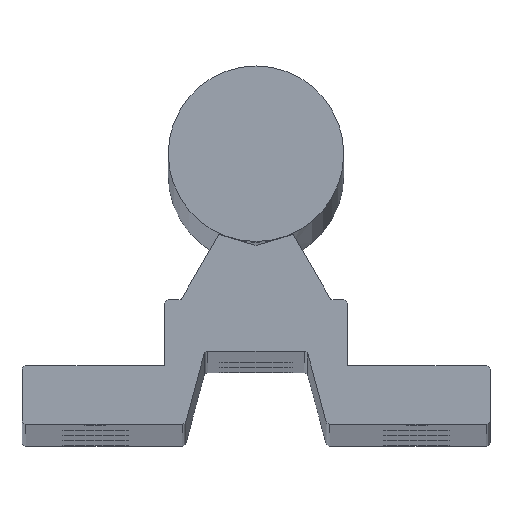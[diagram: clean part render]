
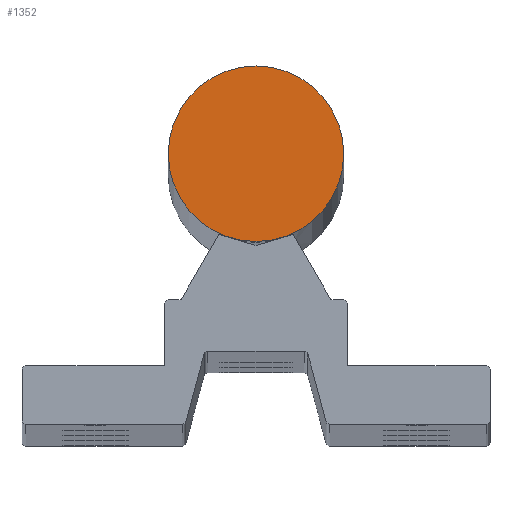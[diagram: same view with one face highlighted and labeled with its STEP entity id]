
A CAD part, top view. The second image highlights one B-rep face of the part: STEP entity #1352.
In plain terms, the highlighted planar face has unit normal (0, 0, 1).
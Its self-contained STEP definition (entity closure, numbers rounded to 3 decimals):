
#38 = AXIS2_PLACEMENT_3D ( 'NONE', #2522, #2279, #1296 ) ;
#155 = VERTEX_POINT ( 'NONE', #2524 ) ;
#440 = VERTEX_POINT ( 'NONE', #2105 ) ;
#734 = DIRECTION ( 'NONE',  ( 1., 0., 0. ) ) ;
#1296 = DIRECTION ( 'NONE',  ( 1., 0., 0. ) ) ;
#1297 = EDGE_CURVE ( 'NONE', #440, #155, #2641, .T. ) ;
#1336 = EDGE_LOOP ( 'NONE', ( #3196, #1422 ) ) ;
#1352 = ADVANCED_FACE ( 'NONE', ( #2424 ), #1681, .T. ) ;
#1406 = CIRCLE ( 'NONE', #38, 6. ) ;
#1422 = ORIENTED_EDGE ( 'NONE', *, *, #1994, .T. ) ;
#1432 = CARTESIAN_POINT ( 'NONE',  ( 0., 0., 425. ) ) ;
#1681 = PLANE ( 'NONE',  #2391 ) ;
#1765 = AXIS2_PLACEMENT_3D ( 'NONE', #1432, #3164, #2917 ) ;
#1994 = EDGE_CURVE ( 'NONE', #155, #440, #1406, .T. ) ;
#2105 = CARTESIAN_POINT ( 'NONE',  ( -6., 0., 425. ) ) ;
#2279 = DIRECTION ( 'NONE',  ( 0., 0., 1. ) ) ;
#2391 = AXIS2_PLACEMENT_3D ( 'NONE', #2955, #2746, #734 ) ;
#2424 = FACE_OUTER_BOUND ( 'NONE', #1336, .T. ) ;
#2522 = CARTESIAN_POINT ( 'NONE',  ( 0., 0., 425. ) ) ;
#2524 = CARTESIAN_POINT ( 'NONE',  ( 6., 0., 425. ) ) ;
#2641 = CIRCLE ( 'NONE', #1765, 6. ) ;
#2746 = DIRECTION ( 'NONE',  ( 0., 0., 1. ) ) ;
#2917 = DIRECTION ( 'NONE',  ( 1., 0., 0. ) ) ;
#2955 = CARTESIAN_POINT ( 'NONE',  ( 0., 0., 425. ) ) ;
#3164 = DIRECTION ( 'NONE',  ( 0., 0., 1. ) ) ;
#3196 = ORIENTED_EDGE ( 'NONE', *, *, #1297, .T. ) ;
